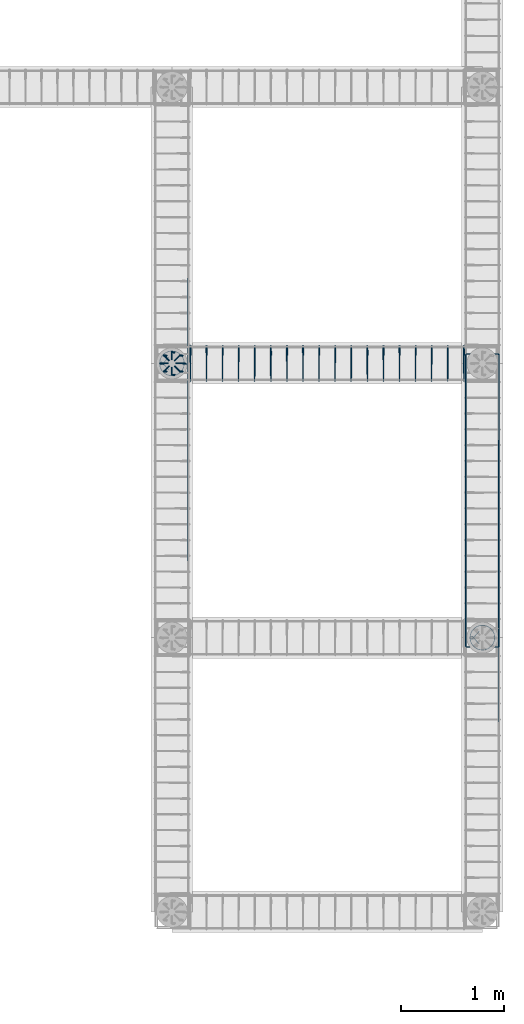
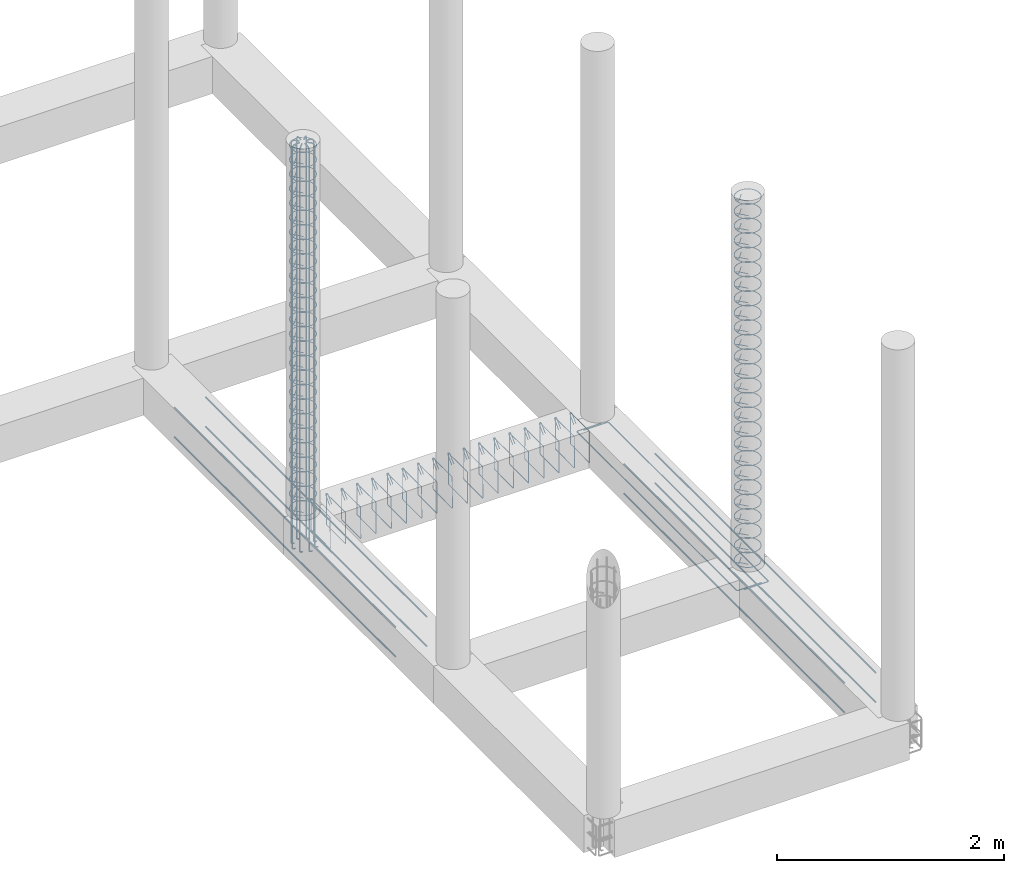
# One storey, part 7 of 20: 8 reinforcing bars.
"""IFC4 building model written with IfcOpenShell, lengths in metres."""

from ifc_helpers import new_model, entity, si_unit, origin_with_axes, place, context, project, spatial, source, transform, mapped, element, save


model = new_model("IFC4")

# Units and contexts
model_context = context("Model", 3, precision=1e-05, world=origin_with_axes())
ifc_project = project(units=[si_unit("LENGTHUNIT", "METRE"), si_unit("AREAUNIT", "SQUARE_METRE"), si_unit("VOLUMEUNIT", "CUBIC_METRE"), si_unit("MASSUNIT", "GRAM", prefix="KILO"), si_unit("TIMEUNIT", "SECOND"), si_unit("PLANEANGLEUNIT", "RADIAN"), si_unit("SOLIDANGLEUNIT", "STERADIAN"), si_unit("THERMODYNAMICTEMPERATUREUNIT", "DEGREE_CELSIUS")], contexts=[model_context])

# Site, building, storey
placement_1 = place(None, origin_with_axes())
site = spatial("IfcSite", under=ifc_project, at=placement_1, Name="Italia", CompositionType="ELEMENT")
building = spatial("IfcBuilding", under=site, at=placement_1, Name="Tettoia", CompositionType="ELEMENT")
storey = spatial("IfcBuildingStorey", under=building, at=placement_1, Name="Storey 0", CompositionType="ELEMENT", Elevation=0.0)

# Reinforcing bars
shared_shape_1 = source(origin_with_axes(), model_context, "Body", "AdvancedSweptSolid", [
    entity("IfcSweptDiskSolid", entity("IfcIndexedPolyCurve", entity("IfcCartesianPointList3D", [[11.2591, 4.58856, 0.029], [11.1957, 4.66046, 0.029], [11.1888, 4.66383, 0.029], [11.182, 4.66426, 0.029], [11.1781, 4.66374, 0.029], [11.1747, 4.66178, 0.029], [11.1724, 4.65867, 0.029], [11.1714, 4.6549, 0.029], [11.1711, 4.65071, 0.029], [11.1711, 4.64929, 0.029], [11.1725, 4.63218, 0.029], [11.1727, 4.63063, 0.029], [11.1767, 4.61401, 0.029], [11.1772, 4.61252, 0.029], [11.1837, 4.59673, 0.029], [11.1844, 4.59533, 0.029], [11.1934, 4.58076, 0.029], [11.1943, 4.57949, 0.029], [11.2054, 4.56649, 0.029], [11.2065, 4.56538, 0.029], [11.2195, 4.55429, 0.029], [11.2208, 4.55336, 0.029], [11.2353, 4.54443, 0.029], [11.2367, 4.54372, 0.029], [11.2525, 4.53718, 0.029], [11.254, 4.5367, 0.029], [11.2706, 4.53271, 0.029], [11.2722, 4.53246, 0.029], [11.2892, 4.53112, 0.029], [11.2908, 4.53112, 0.029], [11.3078, 4.53246, 0.029], [11.3094, 4.53271, 0.029], [11.326, 4.5367, 0.029], [11.3275, 4.53718, 0.029], [11.3433, 4.54372, 0.029], [11.3447, 4.54443, 0.029], [11.3592, 4.55336, 0.029], [11.3605, 4.55429, 0.029], [11.3735, 4.56538, 0.029], [11.3746, 4.56649, 0.029], [11.3857, 4.57949, 0.029], [11.3866, 4.58076, 0.029], [11.3956, 4.59533, 0.029], [11.3963, 4.59673, 0.029], [11.4028, 4.61252, 0.029], [11.4033, 4.61401, 0.029], [11.4073, 4.63063, 0.029], [11.4075, 4.63218, 0.029], [11.4089, 4.64922, 0.029], [11.4089, 4.65078, 0.029], [11.4075, 4.66782, 0.029], [11.4073, 4.66937, 0.029], [11.4033, 4.68599, 0.029], [11.4028, 4.68748, 0.029], [11.3963, 4.70327, 0.029], [11.3956, 4.70467, 0.029], [11.3866, 4.71924, 0.029], [11.3857, 4.72051, 0.029], [11.3746, 4.73351, 0.029], [11.3735, 4.73462, 0.029], [11.3605, 4.74572, 0.029], [11.3592, 4.74664, 0.029], [11.3447, 4.75557, 0.029], [11.3433, 4.75628, 0.029], [11.3275, 4.76282, 0.029], [11.326, 4.7633, 0.029], [11.3094, 4.76729, 0.029], [11.3078, 4.76754, 0.029], [11.2908, 4.76888, 0.029], [11.2892, 4.76888, 0.029], [11.2722, 4.76754, 0.029], [11.2706, 4.76729, 0.029], [11.254, 4.7633, 0.029], [11.2525, 4.76282, 0.029], [11.2367, 4.75628, 0.029], [11.2353, 4.75557, 0.029], [11.2208, 4.74664, 0.029], [11.2195, 4.74572, 0.029], [11.2065, 4.73462, 0.029], [11.2054, 4.73351, 0.029], [11.1943, 4.72051, 0.029], [11.1934, 4.71924, 0.029], [11.1844, 4.70467, 0.029], [11.1837, 4.70327, 0.029], [11.1772, 4.68748, 0.029], [11.1767, 4.68599, 0.029], [11.1727, 4.66937, 0.029], [11.1725, 4.66782, 0.029], [11.1711, 4.65071, 0.029], [11.1711, 4.64929, 0.029], [11.1714, 4.6451, 0.029], [11.1724, 4.64133, 0.029], [11.1747, 4.63822, 0.029], [11.1781, 4.63626, 0.029], [11.182, 4.63574, 0.029], [11.1888, 4.63617, 0.029], [11.1957, 4.63954, 0.029], [11.2591, 4.71144, 0.029]]), [entity("IfcLineIndex", [1, 2]), entity("IfcLineIndex", [2, 3]), entity("IfcLineIndex", [3, 4]), entity("IfcLineIndex", [4, 5]), entity("IfcLineIndex", [5, 6]), entity("IfcLineIndex", [6, 7]), entity("IfcLineIndex", [7, 8]), entity("IfcLineIndex", [8, 9]), entity("IfcLineIndex", [9, 10]), entity("IfcLineIndex", [10, 11]), entity("IfcLineIndex", [11, 12]), entity("IfcLineIndex", [12, 13]), entity("IfcLineIndex", [13, 14]), entity("IfcLineIndex", [14, 15]), entity("IfcLineIndex", [15, 16]), entity("IfcLineIndex", [16, 17]), entity("IfcLineIndex", [17, 18]), entity("IfcLineIndex", [18, 19]), entity("IfcLineIndex", [19, 20]), entity("IfcLineIndex", [20, 21]), entity("IfcLineIndex", [21, 22]), entity("IfcLineIndex", [22, 23]), entity("IfcLineIndex", [23, 24]), entity("IfcLineIndex", [24, 25]), entity("IfcLineIndex", [25, 26]), entity("IfcLineIndex", [26, 27]), entity("IfcLineIndex", [27, 28]), entity("IfcLineIndex", [28, 29]), entity("IfcLineIndex", [29, 30]), entity("IfcLineIndex", [30, 31]), entity("IfcLineIndex", [31, 32]), entity("IfcLineIndex", [32, 33]), entity("IfcLineIndex", [33, 34]), entity("IfcLineIndex", [34, 35]), entity("IfcLineIndex", [35, 36]), entity("IfcLineIndex", [36, 37]), entity("IfcLineIndex", [37, 38]), entity("IfcLineIndex", [38, 39]), entity("IfcLineIndex", [39, 40]), entity("IfcLineIndex", [40, 41]), entity("IfcLineIndex", [41, 42]), entity("IfcLineIndex", [42, 43]), entity("IfcLineIndex", [43, 44]), entity("IfcLineIndex", [44, 45]), entity("IfcLineIndex", [45, 46]), entity("IfcLineIndex", [46, 47]), entity("IfcLineIndex", [47, 48]), entity("IfcLineIndex", [48, 49]), entity("IfcLineIndex", [49, 50]), entity("IfcLineIndex", [50, 51]), entity("IfcLineIndex", [51, 52]), entity("IfcLineIndex", [52, 53]), entity("IfcLineIndex", [53, 54]), entity("IfcLineIndex", [54, 55]), entity("IfcLineIndex", [55, 56]), entity("IfcLineIndex", [56, 57]), entity("IfcLineIndex", [57, 58]), entity("IfcLineIndex", [58, 59]), entity("IfcLineIndex", [59, 60]), entity("IfcLineIndex", [60, 61]), entity("IfcLineIndex", [61, 62]), entity("IfcLineIndex", [62, 63]), entity("IfcLineIndex", [63, 64]), entity("IfcLineIndex", [64, 65]), entity("IfcLineIndex", [65, 66]), entity("IfcLineIndex", [66, 67]), entity("IfcLineIndex", [67, 68]), entity("IfcLineIndex", [68, 69]), entity("IfcLineIndex", [69, 70]), entity("IfcLineIndex", [70, 71]), entity("IfcLineIndex", [71, 72]), entity("IfcLineIndex", [72, 73]), entity("IfcLineIndex", [73, 74]), entity("IfcLineIndex", [74, 75]), entity("IfcLineIndex", [75, 76]), entity("IfcLineIndex", [76, 77]), entity("IfcLineIndex", [77, 78]), entity("IfcLineIndex", [78, 79]), entity("IfcLineIndex", [79, 80]), entity("IfcLineIndex", [80, 81]), entity("IfcLineIndex", [81, 82]), entity("IfcLineIndex", [82, 83]), entity("IfcLineIndex", [83, 84]), entity("IfcLineIndex", [84, 85]), entity("IfcLineIndex", [85, 86]), entity("IfcLineIndex", [86, 87]), entity("IfcLineIndex", [87, 88]), entity("IfcLineIndex", [88, 89]), entity("IfcLineIndex", [89, 90]), entity("IfcLineIndex", [90, 91]), entity("IfcLineIndex", [91, 92]), entity("IfcLineIndex", [92, 93]), entity("IfcLineIndex", [93, 94]), entity("IfcLineIndex", [94, 95]), entity("IfcLineIndex", [95, 96]), entity("IfcLineIndex", [96, 97]), entity("IfcLineIndex", [97, 98])], False), 0.004),
])
placement_2 = place(placement_1, origin_with_axes())
reinforcing_bar_1_placement = place(placement_2, origin_with_axes())
element("IfcReinforcingBar", 1, at=reinforcing_bar_1_placement, inside=storey, BarLength=1.00815, CrossSectionArea=5.0265e-05, NominalDiameter=0.008, context=model_context, shape_type="MappedRepresentation", body=[
    mapped(shared_shape_1, transform((0.0, 0.0, 1.8768), x_axis=(1.0, 0.0, 0.0), y_axis=(0.0, 1.0, 0.0), z_axis=(0.0, 0.0, 1.0), scale=1.0)),
    mapped(shared_shape_1, transform((0.0, 0.0, 1.7204), x_axis=(1.0, 0.0, 0.0), y_axis=(0.0, 1.0, 0.0), z_axis=(0.0, 0.0, 1.0), scale=1.0)),
    mapped(shared_shape_1, transform((0.0, 0.0, 1.0948), x_axis=(1.0, 0.0, 0.0), y_axis=(0.0, 1.0, 0.0), z_axis=(0.0, 0.0, 1.0), scale=1.0)),
    mapped(shared_shape_1, transform((0.0, 0.0, 1.4076), x_axis=(1.0, 0.0, 0.0), y_axis=(0.0, 1.0, 0.0), z_axis=(0.0, 0.0, 1.0), scale=1.0)),
    mapped(shared_shape_1, transform((0.0, 0.0, 1.2512), x_axis=(1.0, 0.0, 0.0), y_axis=(0.0, 1.0, 0.0), z_axis=(0.0, 0.0, 1.0), scale=1.0)),
    mapped(shared_shape_1, transform((0.0, 0.0, 1.564), x_axis=(1.0, 0.0, 0.0), y_axis=(0.0, 1.0, 0.0), z_axis=(0.0, 0.0, 1.0), scale=1.0)),
    mapped(shared_shape_1, transform((0.0, 0.0, 0.9384), x_axis=(1.0, 0.0, 0.0), y_axis=(0.0, 1.0, 0.0), z_axis=(0.0, 0.0, 1.0), scale=1.0)),
    mapped(shared_shape_1, transform((0.0, 0.0, 0.782), x_axis=(1.0, 0.0, 0.0), y_axis=(0.0, 1.0, 0.0), z_axis=(0.0, 0.0, 1.0), scale=1.0)),
    mapped(shared_shape_1, transform((0.0, 0.0, 0.1564), x_axis=(1.0, 0.0, 0.0), y_axis=(0.0, 1.0, 0.0), z_axis=(0.0, 0.0, 1.0), scale=1.0)),
    mapped(shared_shape_1, transform((0.0, 0.0, 0.4692), x_axis=(1.0, 0.0, 0.0), y_axis=(0.0, 1.0, 0.0), z_axis=(0.0, 0.0, 1.0), scale=1.0)),
    mapped(shared_shape_1, transform((0.0, 0.0, 0.3128), x_axis=(1.0, 0.0, 0.0), y_axis=(0.0, 1.0, 0.0), z_axis=(0.0, 0.0, 1.0), scale=1.0)),
    mapped(shared_shape_1, transform((0.0, 0.0, 0.6256), x_axis=(1.0, 0.0, 0.0), y_axis=(0.0, 1.0, 0.0), z_axis=(0.0, 0.0, 1.0), scale=1.0)),
    mapped(shared_shape_1, transform((0.0, 0.0, 0.0), x_axis=(1.0, 0.0, 0.0), y_axis=(0.0, 1.0, 0.0), z_axis=(0.0, 0.0, 1.0), scale=1.0)),
    mapped(shared_shape_1, transform((0.0, 0.0, 3.91), x_axis=(1.0, 0.0, 0.0), y_axis=(0.0, 1.0, 0.0), z_axis=(0.0, 0.0, 1.0), scale=1.0)),
    mapped(shared_shape_1, transform((0.0, 0.0, 3.2844), x_axis=(1.0, 0.0, 0.0), y_axis=(0.0, 1.0, 0.0), z_axis=(0.0, 0.0, 1.0), scale=1.0)),
    mapped(shared_shape_1, transform((0.0, 0.0, 3.5972), x_axis=(1.0, 0.0, 0.0), y_axis=(0.0, 1.0, 0.0), z_axis=(0.0, 0.0, 1.0), scale=1.0)),
    mapped(shared_shape_1, transform((0.0, 0.0, 3.4408), x_axis=(1.0, 0.0, 0.0), y_axis=(0.0, 1.0, 0.0), z_axis=(0.0, 0.0, 1.0), scale=1.0)),
    mapped(shared_shape_1, transform((0.0, 0.0, 3.7536), x_axis=(1.0, 0.0, 0.0), y_axis=(0.0, 1.0, 0.0), z_axis=(0.0, 0.0, 1.0), scale=1.0)),
    mapped(shared_shape_1, transform((0.0, 0.0, 3.128), x_axis=(1.0, 0.0, 0.0), y_axis=(0.0, 1.0, 0.0), z_axis=(0.0, 0.0, 1.0), scale=1.0)),
    mapped(shared_shape_1, transform((0.0, 0.0, 2.9716), x_axis=(1.0, 0.0, 0.0), y_axis=(0.0, 1.0, 0.0), z_axis=(0.0, 0.0, 1.0), scale=1.0)),
    mapped(shared_shape_1, transform((0.0, 0.0, 2.346), x_axis=(1.0, 0.0, 0.0), y_axis=(0.0, 1.0, 0.0), z_axis=(0.0, 0.0, 1.0), scale=1.0)),
    mapped(shared_shape_1, transform((0.0, 0.0, 2.6588), x_axis=(1.0, 0.0, 0.0), y_axis=(0.0, 1.0, 0.0), z_axis=(0.0, 0.0, 1.0), scale=1.0)),
    mapped(shared_shape_1, transform((0.0, 0.0, 2.5024), x_axis=(1.0, 0.0, 0.0), y_axis=(0.0, 1.0, 0.0), z_axis=(0.0, 0.0, 1.0), scale=1.0)),
    mapped(shared_shape_1, transform((0.0, 0.0, 2.8152), x_axis=(1.0, 0.0, 0.0), y_axis=(0.0, 1.0, 0.0), z_axis=(0.0, 0.0, 1.0), scale=1.0)),
    mapped(shared_shape_1, transform((0.0, 0.0, 2.1896), x_axis=(1.0, 0.0, 0.0), y_axis=(0.0, 1.0, 0.0), z_axis=(0.0, 0.0, 1.0), scale=1.0)),
    mapped(shared_shape_1, transform((0.0, 0.0, 2.0332), x_axis=(1.0, 0.0, 0.0), y_axis=(0.0, 1.0, 0.0), z_axis=(0.0, 0.0, 1.0), scale=1.0)),
])
shared_shape_2 = source(origin_with_axes(), model_context, "Body", "AdvancedSweptSolid", [
    entity("IfcSweptDiskSolid", entity("IfcIndexedPolyCurve", entity("IfcCartesianPointList3D", [[8.21102, 7.29605, -0.375], [8.19714, 7.29787, -0.375], [8.19097, 7.29869, -0.373761], [8.18573, 7.29938, -0.370231], [8.18223, 7.29984, -0.364948], [8.181, 7.3, -0.358717], [8.181, 7.3, 0.5725]]), [entity("IfcLineIndex", [1, 2]), entity("IfcLineIndex", [2, 3]), entity("IfcLineIndex", [3, 4]), entity("IfcLineIndex", [4, 5]), entity("IfcLineIndex", [5, 6]), entity("IfcLineIndex", [6, 7])], False), 0.007),
])
reinforcing_bar_2_placement = place(placement_2, origin_with_axes())
element("IfcReinforcingBar", 2, at=reinforcing_bar_2_placement, inside=storey, BarLength=0.97063, CrossSectionArea=0.00015394, NominalDiameter=0.014, context=model_context, shape_type="MappedRepresentation", body=[
    mapped(shared_shape_2, transform((0.186073, -0.0770755, 0.0), x_axis=(1.0, 0.0, 0.0), y_axis=(0.0, 1.0, 0.0), z_axis=(0.0, 0.0, 1.0), scale=1.0)),
    mapped(shared_shape_2, transform((0.218063, -7.34329e-05, 0.0), x_axis=(1.0, 0.0, 0.0), y_axis=(0.0, 1.0, 0.0), z_axis=(0.0, 0.0, 1.0), scale=1.0)),
    mapped(shared_shape_2, transform((0.0319242, -0.0770755, 0.0), x_axis=(1.0, 0.0, 0.0), y_axis=(0.0, 1.0, 0.0), z_axis=(0.0, 0.0, 1.0), scale=1.0)),
    mapped(shared_shape_2, transform((0.109063, -0.109074, 0.0), x_axis=(1.0, 0.0, 0.0), y_axis=(0.0, 1.0, 0.0), z_axis=(0.0, 0.0, 1.0), scale=1.0)),
    mapped(shared_shape_2, transform((0.0, 0.0, 0.0), x_axis=(1.0, 0.0, 0.0), y_axis=(0.0, 1.0, 0.0), z_axis=(0.0, 0.0, 1.0), scale=1.0)),
    mapped(shared_shape_2, transform((0.0319891, 0.0770011, 0.0), x_axis=(1.0, 0.0, 0.0), y_axis=(0.0, 1.0, 0.0), z_axis=(0.0, 0.0, 1.0), scale=1.0)),
    mapped(shared_shape_2, transform((0.186073, 0.0770741, 0.0), x_axis=(1.0, 0.0, 0.0), y_axis=(0.0, 1.0, 0.0), z_axis=(0.0, 0.0, 1.0), scale=1.0)),
    mapped(shared_shape_2, transform((0.108752, 0.109276, 0.0), x_axis=(1.0, -3.37511e-05, 0.0), y_axis=(3.38405e-05, 1.0, 0.0), z_axis=(0.0, 0.0, 1.0), scale=1.0)),
])
shared_shape_3 = source(origin_with_axes(), model_context, "Body", "AdvancedSweptSolid", [
    entity("IfcSweptDiskSolid", entity("IfcIndexedPolyCurve", entity("IfcCartesianPointList3D", [[8.181, 7.3, 0.0], [8.181, 7.3, 3.94], [8.18366, 7.3, 3.95339], [8.19125, 7.3, 3.96475], [8.20261, 7.3, 3.97234], [8.216, 7.3, 3.975], [8.256, 7.3, 3.975]]), [entity("IfcLineIndex", [1, 2]), entity("IfcLineIndex", [2, 3]), entity("IfcLineIndex", [3, 4]), entity("IfcLineIndex", [4, 5]), entity("IfcLineIndex", [5, 6]), entity("IfcLineIndex", [6, 7])], False), 0.007),
])
reinforcing_bar_3_placement = place(placement_2, origin_with_axes())
element("IfcReinforcingBar", 3, at=reinforcing_bar_3_placement, inside=storey, BarLength=4.03463, CrossSectionArea=0.00015394, NominalDiameter=0.014, context=model_context, shape_type="MappedRepresentation", body=[
    mapped(shared_shape_3, transform((19.3138, 6.59992, 0.0), x_axis=(-0.707104, 0.70711, 0.0), y_axis=(-0.70711, -0.707104, 0.0), z_axis=(0.0, 0.0, 1.0), scale=1.0)),
    mapped(shared_shape_3, transform((16.58, 14.6, 0.0), x_axis=(-1.0, 0.0, 0.0), y_axis=(0.0, -1.0, 0.0), z_axis=(0.0, 0.0, 1.0), scale=1.0)),
    mapped(shared_shape_3, transform((7.58996, -3.72379, 0.0), x_axis=(0.707107, 0.707107, 0.0), y_axis=(-0.707107, 0.707107, 0.0), z_axis=(0.0, 0.0, 1.0), scale=1.0)),
    mapped(shared_shape_3, transform((15.59, -0.99, 0.0), x_axis=(0.0, 1.0, 0.0), y_axis=(-1.0, 0.0, 0.0), z_axis=(0.0, 0.0, 1.0), scale=1.0)),
    mapped(shared_shape_3, transform((-2.7338, 8.00004, 0.0), x_axis=(0.707107, -0.707107, 0.0), y_axis=(0.707107, 0.707107, 0.0), z_axis=(0.0, 0.0, 1.0), scale=1.0)),
    mapped(shared_shape_3, transform((0.0, 0.0, 0.0), x_axis=(1.0, 0.0, 0.0), y_axis=(0.0, 1.0, 0.0), z_axis=(0.0, 0.0, 1.0), scale=1.0)),
    mapped(shared_shape_3, transform((8.99004, 18.3238, 0.0), x_axis=(-0.707107, -0.707107, 0.0), y_axis=(0.707107, -0.707107, 0.0), z_axis=(0.0, 0.0, 1.0), scale=1.0)),
    mapped(shared_shape_3, transform((0.99, 15.59, 0.0), x_axis=(0.0, -1.0, 0.0), y_axis=(1.0, 0.0, 0.0), z_axis=(0.0, 0.0, 1.0), scale=1.0)),
])
shared_shape_4 = source(origin_with_axes(), model_context, "Body", "AdvancedSweptSolid", [
    entity("IfcSweptDiskSolid", entity("IfcIndexedPolyCurve", entity("IfcCartesianPointList3D", [[8.25909, 7.23856, 0.029], [8.19569, 7.31046, 0.029], [8.18882, 7.31383, 0.029], [8.18197, 7.31426, 0.029], [8.17811, 7.31374, 0.029], [8.17473, 7.31178, 0.029], [8.17237, 7.30867, 0.029], [8.17137, 7.3049, 0.029], [8.1711, 7.30071, 0.029], [8.17111, 7.29929, 0.029], [8.17246, 7.28218, 0.029], [8.17271, 7.28063, 0.029], [8.1767, 7.26401, 0.029], [8.17718, 7.26252, 0.029], [8.18372, 7.24673, 0.029], [8.18443, 7.24533, 0.029], [8.19336, 7.23076, 0.029], [8.19429, 7.22949, 0.029], [8.20538, 7.21649, 0.029], [8.20649, 7.21538, 0.029], [8.21949, 7.20429, 0.029], [8.22076, 7.20336, 0.029], [8.23533, 7.19443, 0.029], [8.23673, 7.19372, 0.029], [8.25252, 7.18718, 0.029], [8.25401, 7.1867, 0.029], [8.27063, 7.18271, 0.029], [8.27218, 7.18246, 0.029], [8.28922, 7.18112, 0.029], [8.29078, 7.18112, 0.029], [8.30782, 7.18246, 0.029], [8.30937, 7.18271, 0.029], [8.32599, 7.1867, 0.029], [8.32748, 7.18718, 0.029], [8.34327, 7.19372, 0.029], [8.34467, 7.19443, 0.029], [8.35924, 7.20336, 0.029], [8.36051, 7.20429, 0.029], [8.37351, 7.21538, 0.029], [8.37462, 7.21649, 0.029], [8.38571, 7.22949, 0.029], [8.38664, 7.23076, 0.029], [8.39557, 7.24533, 0.029], [8.39628, 7.24673, 0.029], [8.40282, 7.26252, 0.029], [8.4033, 7.26401, 0.029], [8.40729, 7.28063, 0.029], [8.40754, 7.28218, 0.029], [8.40888, 7.29922, 0.029], [8.40888, 7.30079, 0.029], [8.40754, 7.31782, 0.029], [8.40729, 7.31937, 0.029], [8.4033, 7.33599, 0.029], [8.40282, 7.33748, 0.029], [8.39628, 7.35327, 0.029], [8.39557, 7.35467, 0.029], [8.38664, 7.36924, 0.029], [8.38571, 7.37051, 0.029], [8.37462, 7.38351, 0.029], [8.37351, 7.38462, 0.029], [8.36051, 7.39572, 0.029], [8.35924, 7.39664, 0.029], [8.34467, 7.40557, 0.029], [8.34327, 7.40628, 0.029], [8.32748, 7.41282, 0.029], [8.32599, 7.4133, 0.029], [8.30937, 7.41729, 0.029], [8.30782, 7.41754, 0.029], [8.29078, 7.41888, 0.029], [8.28922, 7.41888, 0.029], [8.27218, 7.41754, 0.029], [8.27063, 7.41729, 0.029], [8.25401, 7.4133, 0.029], [8.25252, 7.41282, 0.029], [8.23673, 7.40628, 0.029], [8.23533, 7.40557, 0.029], [8.22076, 7.39664, 0.029], [8.21949, 7.39572, 0.029], [8.20649, 7.38462, 0.029], [8.20538, 7.38351, 0.029], [8.19429, 7.37051, 0.029], [8.19336, 7.36924, 0.029], [8.18443, 7.35467, 0.029], [8.18372, 7.35327, 0.029], [8.17718, 7.33748, 0.029], [8.1767, 7.33599, 0.029], [8.17271, 7.31937, 0.029], [8.17246, 7.31782, 0.029], [8.17111, 7.30071, 0.029], [8.1711, 7.29929, 0.029], [8.17137, 7.2951, 0.029], [8.17237, 7.29133, 0.029], [8.17473, 7.28822, 0.029], [8.17811, 7.28626, 0.029], [8.18197, 7.28574, 0.029], [8.18882, 7.28617, 0.029], [8.19569, 7.28954, 0.029], [8.25909, 7.36144, 0.029]]), [entity("IfcLineIndex", [1, 2]), entity("IfcLineIndex", [2, 3]), entity("IfcLineIndex", [3, 4]), entity("IfcLineIndex", [4, 5]), entity("IfcLineIndex", [5, 6]), entity("IfcLineIndex", [6, 7]), entity("IfcLineIndex", [7, 8]), entity("IfcLineIndex", [8, 9]), entity("IfcLineIndex", [9, 10]), entity("IfcLineIndex", [10, 11]), entity("IfcLineIndex", [11, 12]), entity("IfcLineIndex", [12, 13]), entity("IfcLineIndex", [13, 14]), entity("IfcLineIndex", [14, 15]), entity("IfcLineIndex", [15, 16]), entity("IfcLineIndex", [16, 17]), entity("IfcLineIndex", [17, 18]), entity("IfcLineIndex", [18, 19]), entity("IfcLineIndex", [19, 20]), entity("IfcLineIndex", [20, 21]), entity("IfcLineIndex", [21, 22]), entity("IfcLineIndex", [22, 23]), entity("IfcLineIndex", [23, 24]), entity("IfcLineIndex", [24, 25]), entity("IfcLineIndex", [25, 26]), entity("IfcLineIndex", [26, 27]), entity("IfcLineIndex", [27, 28]), entity("IfcLineIndex", [28, 29]), entity("IfcLineIndex", [29, 30]), entity("IfcLineIndex", [30, 31]), entity("IfcLineIndex", [31, 32]), entity("IfcLineIndex", [32, 33]), entity("IfcLineIndex", [33, 34]), entity("IfcLineIndex", [34, 35]), entity("IfcLineIndex", [35, 36]), entity("IfcLineIndex", [36, 37]), entity("IfcLineIndex", [37, 38]), entity("IfcLineIndex", [38, 39]), entity("IfcLineIndex", [39, 40]), entity("IfcLineIndex", [40, 41]), entity("IfcLineIndex", [41, 42]), entity("IfcLineIndex", [42, 43]), entity("IfcLineIndex", [43, 44]), entity("IfcLineIndex", [44, 45]), entity("IfcLineIndex", [45, 46]), entity("IfcLineIndex", [46, 47]), entity("IfcLineIndex", [47, 48]), entity("IfcLineIndex", [48, 49]), entity("IfcLineIndex", [49, 50]), entity("IfcLineIndex", [50, 51]), entity("IfcLineIndex", [51, 52]), entity("IfcLineIndex", [52, 53]), entity("IfcLineIndex", [53, 54]), entity("IfcLineIndex", [54, 55]), entity("IfcLineIndex", [55, 56]), entity("IfcLineIndex", [56, 57]), entity("IfcLineIndex", [57, 58]), entity("IfcLineIndex", [58, 59]), entity("IfcLineIndex", [59, 60]), entity("IfcLineIndex", [60, 61]), entity("IfcLineIndex", [61, 62]), entity("IfcLineIndex", [62, 63]), entity("IfcLineIndex", [63, 64]), entity("IfcLineIndex", [64, 65]), entity("IfcLineIndex", [65, 66]), entity("IfcLineIndex", [66, 67]), entity("IfcLineIndex", [67, 68]), entity("IfcLineIndex", [68, 69]), entity("IfcLineIndex", [69, 70]), entity("IfcLineIndex", [70, 71]), entity("IfcLineIndex", [71, 72]), entity("IfcLineIndex", [72, 73]), entity("IfcLineIndex", [73, 74]), entity("IfcLineIndex", [74, 75]), entity("IfcLineIndex", [75, 76]), entity("IfcLineIndex", [76, 77]), entity("IfcLineIndex", [77, 78]), entity("IfcLineIndex", [78, 79]), entity("IfcLineIndex", [79, 80]), entity("IfcLineIndex", [80, 81]), entity("IfcLineIndex", [81, 82]), entity("IfcLineIndex", [82, 83]), entity("IfcLineIndex", [83, 84]), entity("IfcLineIndex", [84, 85]), entity("IfcLineIndex", [85, 86]), entity("IfcLineIndex", [86, 87]), entity("IfcLineIndex", [87, 88]), entity("IfcLineIndex", [88, 89]), entity("IfcLineIndex", [89, 90]), entity("IfcLineIndex", [90, 91]), entity("IfcLineIndex", [91, 92]), entity("IfcLineIndex", [92, 93]), entity("IfcLineIndex", [93, 94]), entity("IfcLineIndex", [94, 95]), entity("IfcLineIndex", [95, 96]), entity("IfcLineIndex", [96, 97]), entity("IfcLineIndex", [97, 98])], False), 0.004),
])
reinforcing_bar_4_placement = place(placement_2, origin_with_axes())
element("IfcReinforcingBar", 4, at=reinforcing_bar_4_placement, inside=storey, BarLength=1.00815, CrossSectionArea=5.0265e-05, NominalDiameter=0.008, context=model_context, shape_type="MappedRepresentation", body=[
    mapped(shared_shape_4, transform((0.0, 0.0, 1.8768), x_axis=(1.0, 0.0, 0.0), y_axis=(0.0, 1.0, 0.0), z_axis=(0.0, 0.0, 1.0), scale=1.0)),
    mapped(shared_shape_4, transform((0.0, 0.0, 1.7204), x_axis=(1.0, 0.0, 0.0), y_axis=(0.0, 1.0, 0.0), z_axis=(0.0, 0.0, 1.0), scale=1.0)),
    mapped(shared_shape_4, transform((0.0, 0.0, 1.0948), x_axis=(1.0, 0.0, 0.0), y_axis=(0.0, 1.0, 0.0), z_axis=(0.0, 0.0, 1.0), scale=1.0)),
    mapped(shared_shape_4, transform((0.0, 0.0, 1.4076), x_axis=(1.0, 0.0, 0.0), y_axis=(0.0, 1.0, 0.0), z_axis=(0.0, 0.0, 1.0), scale=1.0)),
    mapped(shared_shape_4, transform((0.0, 0.0, 1.2512), x_axis=(1.0, 0.0, 0.0), y_axis=(0.0, 1.0, 0.0), z_axis=(0.0, 0.0, 1.0), scale=1.0)),
    mapped(shared_shape_4, transform((0.0, 0.0, 1.564), x_axis=(1.0, 0.0, 0.0), y_axis=(0.0, 1.0, 0.0), z_axis=(0.0, 0.0, 1.0), scale=1.0)),
    mapped(shared_shape_4, transform((0.0, 0.0, 0.9384), x_axis=(1.0, 0.0, 0.0), y_axis=(0.0, 1.0, 0.0), z_axis=(0.0, 0.0, 1.0), scale=1.0)),
    mapped(shared_shape_4, transform((0.0, 0.0, 0.782), x_axis=(1.0, 0.0, 0.0), y_axis=(0.0, 1.0, 0.0), z_axis=(0.0, 0.0, 1.0), scale=1.0)),
    mapped(shared_shape_4, transform((0.0, 0.0, 0.1564), x_axis=(1.0, 0.0, 0.0), y_axis=(0.0, 1.0, 0.0), z_axis=(0.0, 0.0, 1.0), scale=1.0)),
    mapped(shared_shape_4, transform((0.0, 0.0, 0.4692), x_axis=(1.0, 0.0, 0.0), y_axis=(0.0, 1.0, 0.0), z_axis=(0.0, 0.0, 1.0), scale=1.0)),
    mapped(shared_shape_4, transform((0.0, 0.0, 0.3128), x_axis=(1.0, 0.0, 0.0), y_axis=(0.0, 1.0, 0.0), z_axis=(0.0, 0.0, 1.0), scale=1.0)),
    mapped(shared_shape_4, transform((0.0, 0.0, 0.6256), x_axis=(1.0, 0.0, 0.0), y_axis=(0.0, 1.0, 0.0), z_axis=(0.0, 0.0, 1.0), scale=1.0)),
    mapped(shared_shape_4, transform((0.0, 0.0, 0.0), x_axis=(1.0, 0.0, 0.0), y_axis=(0.0, 1.0, 0.0), z_axis=(0.0, 0.0, 1.0), scale=1.0)),
    mapped(shared_shape_4, transform((0.0, 0.0, 3.91), x_axis=(1.0, 0.0, 0.0), y_axis=(0.0, 1.0, 0.0), z_axis=(0.0, 0.0, 1.0), scale=1.0)),
    mapped(shared_shape_4, transform((0.0, 0.0, 3.2844), x_axis=(1.0, 0.0, 0.0), y_axis=(0.0, 1.0, 0.0), z_axis=(0.0, 0.0, 1.0), scale=1.0)),
    mapped(shared_shape_4, transform((0.0, 0.0, 3.5972), x_axis=(1.0, 0.0, 0.0), y_axis=(0.0, 1.0, 0.0), z_axis=(0.0, 0.0, 1.0), scale=1.0)),
    mapped(shared_shape_4, transform((0.0, 0.0, 3.4408), x_axis=(1.0, 0.0, 0.0), y_axis=(0.0, 1.0, 0.0), z_axis=(0.0, 0.0, 1.0), scale=1.0)),
    mapped(shared_shape_4, transform((0.0, 0.0, 3.7536), x_axis=(1.0, 0.0, 0.0), y_axis=(0.0, 1.0, 0.0), z_axis=(0.0, 0.0, 1.0), scale=1.0)),
    mapped(shared_shape_4, transform((0.0, 0.0, 3.128), x_axis=(1.0, 0.0, 0.0), y_axis=(0.0, 1.0, 0.0), z_axis=(0.0, 0.0, 1.0), scale=1.0)),
    mapped(shared_shape_4, transform((0.0, 0.0, 2.9716), x_axis=(1.0, 0.0, 0.0), y_axis=(0.0, 1.0, 0.0), z_axis=(0.0, 0.0, 1.0), scale=1.0)),
    mapped(shared_shape_4, transform((0.0, 0.0, 2.346), x_axis=(1.0, 0.0, 0.0), y_axis=(0.0, 1.0, 0.0), z_axis=(0.0, 0.0, 1.0), scale=1.0)),
    mapped(shared_shape_4, transform((0.0, 0.0, 2.6588), x_axis=(1.0, 0.0, 0.0), y_axis=(0.0, 1.0, 0.0), z_axis=(0.0, 0.0, 1.0), scale=1.0)),
    mapped(shared_shape_4, transform((0.0, 0.0, 2.5024), x_axis=(1.0, 0.0, 0.0), y_axis=(0.0, 1.0, 0.0), z_axis=(0.0, 0.0, 1.0), scale=1.0)),
    mapped(shared_shape_4, transform((0.0, 0.0, 2.8152), x_axis=(1.0, 0.0, 0.0), y_axis=(0.0, 1.0, 0.0), z_axis=(0.0, 0.0, 1.0), scale=1.0)),
    mapped(shared_shape_4, transform((0.0, 0.0, 2.1896), x_axis=(1.0, 0.0, 0.0), y_axis=(0.0, 1.0, 0.0), z_axis=(0.0, 0.0, 1.0), scale=1.0)),
    mapped(shared_shape_4, transform((0.0, 0.0, 2.0332), x_axis=(1.0, 0.0, 0.0), y_axis=(0.0, 1.0, 0.0), z_axis=(0.0, 0.0, 1.0), scale=1.0)),
])
shared_shape_5 = source(origin_with_axes(), model_context, "Body", "AdvancedSweptSolid", [
    entity("IfcSweptDiskSolid", entity("IfcIndexedPolyCurve", entity("IfcCartesianPointList3D", [[8.465, 7.40029, -0.120711], [8.46556, 7.46807, -0.0529289], [8.4656, 7.471, -0.0458579], [8.46564, 7.471, -0.039], [8.46566, 7.47024, -0.0351732], [8.46568, 7.46807, -0.0319289], [8.46571, 7.46483, -0.0297612], [8.46573, 7.461, -0.029], [8.4676, 7.139, -0.029], [8.46762, 7.13517, -0.0297612], [8.46764, 7.13193, -0.0319289], [8.46766, 7.12976, -0.0351732], [8.46769, 7.129, -0.039], [8.46955, 7.129, -0.361], [8.46958, 7.12976, -0.364827], [8.4696, 7.13193, -0.368071], [8.46962, 7.13517, -0.370239], [8.46965, 7.139, -0.371], [8.47151, 7.461, -0.371], [8.47153, 7.46483, -0.370239], [8.47156, 7.46807, -0.368071], [8.47158, 7.47024, -0.364827], [8.4716, 7.471, -0.361], [8.47347, 7.471, -0.039], [8.47349, 7.47024, -0.0351732], [8.47351, 7.46807, -0.0319289], [8.47354, 7.46483, -0.0297612], [8.47356, 7.461, -0.029], [8.4736, 7.45414, -0.029], [8.47364, 7.44707, -0.0319289], [8.4742, 7.37929, -0.0997114]]), [entity("IfcLineIndex", [1, 2]), entity("IfcLineIndex", [2, 3]), entity("IfcLineIndex", [3, 4]), entity("IfcLineIndex", [4, 5]), entity("IfcLineIndex", [5, 6]), entity("IfcLineIndex", [6, 7]), entity("IfcLineIndex", [7, 8]), entity("IfcLineIndex", [8, 9]), entity("IfcLineIndex", [9, 10]), entity("IfcLineIndex", [10, 11]), entity("IfcLineIndex", [11, 12]), entity("IfcLineIndex", [12, 13]), entity("IfcLineIndex", [13, 14]), entity("IfcLineIndex", [14, 15]), entity("IfcLineIndex", [15, 16]), entity("IfcLineIndex", [16, 17]), entity("IfcLineIndex", [17, 18]), entity("IfcLineIndex", [18, 19]), entity("IfcLineIndex", [19, 20]), entity("IfcLineIndex", [20, 21]), entity("IfcLineIndex", [21, 22]), entity("IfcLineIndex", [22, 23]), entity("IfcLineIndex", [23, 24]), entity("IfcLineIndex", [24, 25]), entity("IfcLineIndex", [25, 26]), entity("IfcLineIndex", [26, 27]), entity("IfcLineIndex", [27, 28]), entity("IfcLineIndex", [28, 29]), entity("IfcLineIndex", [29, 30]), entity("IfcLineIndex", [30, 31])], False), 0.004),
])
reinforcing_bar_5_placement = place(placement_2, origin_with_axes())
element("IfcReinforcingBar", 5, at=reinforcing_bar_5_placement, inside=storey, BarLength=1.5868, CrossSectionArea=5.0265e-05, NominalDiameter=0.008, context=model_context, shape_type="MappedRepresentation", body=[
    mapped(shared_shape_5, transform((1.24329, 0.0, 0.0), x_axis=(1.0, 0.0, 0.0), y_axis=(0.0, 1.0, 0.0), z_axis=(0.0, 0.0, 1.0), scale=1.0)),
    mapped(shared_shape_5, transform((1.08788, 0.0, 0.0), x_axis=(1.0, 0.0, 0.0), y_axis=(0.0, 1.0, 0.0), z_axis=(0.0, 0.0, 1.0), scale=1.0)),
    mapped(shared_shape_5, transform((0.932469, 0.0, 0.0), x_axis=(1.0, 0.0, 0.0), y_axis=(0.0, 1.0, 0.0), z_axis=(0.0, 0.0, 1.0), scale=1.0)),
    mapped(shared_shape_5, transform((0.777058, 0.0, 0.0), x_axis=(1.0, 0.0, 0.0), y_axis=(0.0, 1.0, 0.0), z_axis=(0.0, 0.0, 1.0), scale=1.0)),
    mapped(shared_shape_5, transform((0.621646, 0.0, 0.0), x_axis=(1.0, 0.0, 0.0), y_axis=(0.0, 1.0, 0.0), z_axis=(0.0, 0.0, 1.0), scale=1.0)),
    mapped(shared_shape_5, transform((0.466234, 0.0, 0.0), x_axis=(1.0, 0.0, 0.0), y_axis=(0.0, 1.0, 0.0), z_axis=(0.0, 0.0, 1.0), scale=1.0)),
    mapped(shared_shape_5, transform((0.310822, 0.0, 0.0), x_axis=(1.0, 0.0, 0.0), y_axis=(0.0, 1.0, 0.0), z_axis=(0.0, 0.0, 1.0), scale=1.0)),
    mapped(shared_shape_5, transform((0.155411, 0.0, 0.0), x_axis=(1.0, 0.0, 0.0), y_axis=(0.0, 1.0, 0.0), z_axis=(0.0, 0.0, 1.0), scale=1.0)),
    mapped(shared_shape_5, transform((0.0, 0.0, 0.0), x_axis=(1.0, 0.0, 0.0), y_axis=(0.0, 1.0, 0.0), z_axis=(0.0, 0.0, 1.0), scale=1.0)),
    mapped(shared_shape_5, transform((2.642, 0.0, 0.0), x_axis=(1.0, 0.0, 0.0), y_axis=(0.0, 1.0, 0.0), z_axis=(0.0, 0.0, 1.0), scale=1.0)),
    mapped(shared_shape_5, transform((2.48659, 0.0, 0.0), x_axis=(1.0, 0.0, 0.0), y_axis=(0.0, 1.0, 0.0), z_axis=(0.0, 0.0, 1.0), scale=1.0)),
    mapped(shared_shape_5, transform((2.33118, 0.0, 0.0), x_axis=(1.0, 0.0, 0.0), y_axis=(0.0, 1.0, 0.0), z_axis=(0.0, 0.0, 1.0), scale=1.0)),
    mapped(shared_shape_5, transform((2.17576, 0.0, 0.0), x_axis=(1.0, 0.0, 0.0), y_axis=(0.0, 1.0, 0.0), z_axis=(0.0, 0.0, 1.0), scale=1.0)),
    mapped(shared_shape_5, transform((2.02035, 0.0, 0.0), x_axis=(1.0, 0.0, 0.0), y_axis=(0.0, 1.0, 0.0), z_axis=(0.0, 0.0, 1.0), scale=1.0)),
    mapped(shared_shape_5, transform((1.86494, 0.0, 0.0), x_axis=(1.0, 0.0, 0.0), y_axis=(0.0, 1.0, 0.0), z_axis=(0.0, 0.0, 1.0), scale=1.0)),
    mapped(shared_shape_5, transform((1.70953, 0.0, 0.0), x_axis=(1.0, 0.0, 0.0), y_axis=(0.0, 1.0, 0.0), z_axis=(0.0, 0.0, 1.0), scale=1.0)),
    mapped(shared_shape_5, transform((1.55412, 0.0, 0.0), x_axis=(1.0, 0.0, 0.0), y_axis=(0.0, 1.0, 0.0), z_axis=(0.0, 0.0, 1.0), scale=1.0)),
    mapped(shared_shape_5, transform((1.39871, 0.0, 0.0), x_axis=(1.0, 0.0, 0.0), y_axis=(0.0, 1.0, 0.0), z_axis=(0.0, 0.0, 1.0), scale=1.0)),
])
shared_shape_6 = source(origin_with_axes(), model_context, "Body", "AdvancedSweptSolid", [
    entity("IfcSweptDiskSolid", entity("IfcIndexedPolyCurve", entity("IfcCartesianPointList3D", [[8.449, 5.39227, -0.359], [8.449, 5.975, -0.359], [8.449, 8.71, -0.359], [8.449, 9.29273, -0.359]]), [entity("IfcLineIndex", [1, 2]), entity("IfcLineIndex", [2, 3]), entity("IfcLineIndex", [3, 4])], False), 0.008),
])
reinforcing_bar_6_placement = place(placement_2, origin_with_axes())
element("IfcReinforcingBar", 6, at=reinforcing_bar_6_placement, inside=storey, BarLength=3.90045, CrossSectionArea=0.00020106, NominalDiameter=0.016, context=model_context, shape_type="MappedRepresentation", body=[
    mapped(shared_shape_6, transform((-0.318, 0.0, 0.0), x_axis=(1.0, 0.0, 0.0), y_axis=(0.0, 1.0, 0.0), z_axis=(0.0, 0.0, 1.0), scale=1.0)),
    mapped(shared_shape_6, transform((0.0, 0.0, 0.0), x_axis=(1.0, 0.0, 0.0), y_axis=(0.0, 1.0, 0.0), z_axis=(0.0, 0.0, 1.0), scale=1.0)),
    mapped(shared_shape_6, transform((-0.318, 0.0, 0.318), x_axis=(1.0, 0.0, 0.0), y_axis=(0.0, 1.0, 0.0), z_axis=(0.0, 0.0, 1.0), scale=1.0)),
    mapped(shared_shape_6, transform((0.0, 0.0, 0.318), x_axis=(1.0, 0.0, 0.0), y_axis=(0.0, 1.0, 0.0), z_axis=(0.0, 0.0, 1.0), scale=1.0)),
])
shared_shape_7 = source(origin_with_axes(), model_context, "Body", "AdvancedSweptSolid", [
    entity("IfcSweptDiskSolid", entity("IfcIndexedPolyCurve", entity("IfcCartesianPointList3D", [[11.379, 4.56, -0.194], [11.139, 4.56, -0.194], [11.1352, 4.56076, -0.194], [11.1319, 4.56293, -0.194], [11.1298, 4.56617, -0.194], [11.129, 4.57, -0.194], [11.129, 7.38, -0.194], [11.1298, 7.38383, -0.194], [11.1319, 7.38707, -0.194], [11.1352, 7.38924, -0.194], [11.139, 7.39, -0.194], [11.379, 7.39, -0.194]]), [entity("IfcLineIndex", [1, 2]), entity("IfcLineIndex", [2, 3]), entity("IfcLineIndex", [3, 4]), entity("IfcLineIndex", [4, 5]), entity("IfcLineIndex", [5, 6]), entity("IfcLineIndex", [6, 7]), entity("IfcLineIndex", [7, 8]), entity("IfcLineIndex", [8, 9]), entity("IfcLineIndex", [9, 10]), entity("IfcLineIndex", [10, 11]), entity("IfcLineIndex", [11, 12])], False), 0.006),
])
reinforcing_bar_7_placement = place(placement_2, origin_with_axes())
element("IfcReinforcingBar", 7, at=reinforcing_bar_7_placement, inside=storey, BarLength=3.32121, CrossSectionArea=0.0001131, NominalDiameter=0.012, context=model_context, shape_type="MappedRepresentation", body=[
    mapped(shared_shape_7, transform((22.58, 0.0, -0.4), x_axis=(-1.0, 0.0, 0.0), y_axis=(0.0, 1.0, 0.0), z_axis=(0.0, 0.0, -1.0), scale=1.0)),
    mapped(shared_shape_7, transform((0.0, 0.0, 0.0), x_axis=(1.0, 0.0, 0.0), y_axis=(0.0, 1.0, 0.0), z_axis=(0.0, 0.0, 1.0), scale=1.0)),
])
shared_shape_8 = source(origin_with_axes(), model_context, "Body", "AdvancedSweptSolid", [
    entity("IfcSweptDiskSolid", entity("IfcIndexedPolyCurve", entity("IfcCartesianPointList3D", [[11.449, 2.66727, -0.359], [11.449, 3.25, -0.359], [11.449, 5.975, -0.359], [11.449, 6.55773, -0.359]]), [entity("IfcLineIndex", [1, 2]), entity("IfcLineIndex", [2, 3]), entity("IfcLineIndex", [3, 4])], False), 0.008),
])
reinforcing_bar_8_placement = place(placement_2, origin_with_axes())
element("IfcReinforcingBar", 8, at=reinforcing_bar_8_placement, inside=storey, BarLength=3.89046, CrossSectionArea=0.00020106, NominalDiameter=0.016, context=model_context, shape_type="MappedRepresentation", body=[
    mapped(shared_shape_8, transform((-0.318, 0.0, 0.0), x_axis=(1.0, 0.0, 0.0), y_axis=(0.0, 1.0, 0.0), z_axis=(0.0, 0.0, 1.0), scale=1.0)),
    mapped(shared_shape_8, transform((0.0, 0.0, 0.0), x_axis=(1.0, 0.0, 0.0), y_axis=(0.0, 1.0, 0.0), z_axis=(0.0, 0.0, 1.0), scale=1.0)),
    mapped(shared_shape_8, transform((-0.318, 0.0, 0.318), x_axis=(1.0, 0.0, 0.0), y_axis=(0.0, 1.0, 0.0), z_axis=(0.0, 0.0, 1.0), scale=1.0)),
    mapped(shared_shape_8, transform((0.0, 0.0, 0.318), x_axis=(1.0, 0.0, 0.0), y_axis=(0.0, 1.0, 0.0), z_axis=(0.0, 0.0, 1.0), scale=1.0)),
])

save(model, "model.ifc")
